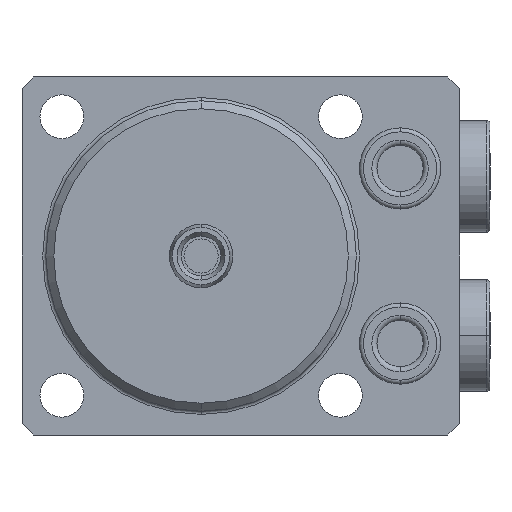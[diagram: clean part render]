
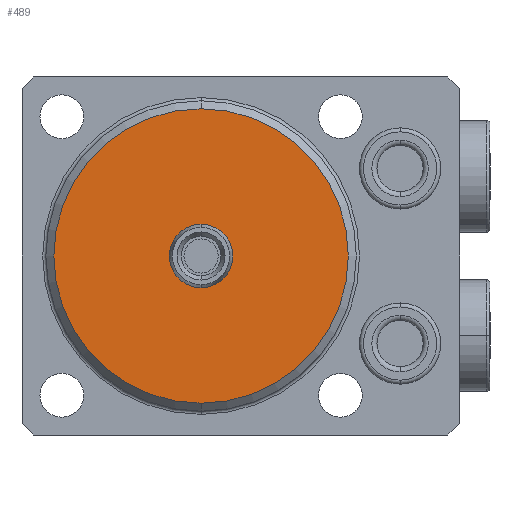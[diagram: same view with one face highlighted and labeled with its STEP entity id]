
A CAD part, front view. The second image highlights one B-rep face of the part: STEP entity #489.
In plain terms, the highlighted planar face has unit normal (0, -1, 0) as drawn and (0, 1, 0) by its records, which use the part's own axes.
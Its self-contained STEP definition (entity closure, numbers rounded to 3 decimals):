
#218=PLANE('',#5050);
#334=FACE_BOUND('',#1166,.F.);
#335=FACE_BOUND('',#1167,.F.);
#489=ADVANCED_FACE('',(#334,#335),#218,.T.);
#1166=EDGE_LOOP('',(#2096,#2097));
#1167=EDGE_LOOP('',(#2098,#2099));
#1450=CIRCLE('',#4920,4.);
#1505=CIRCLE('',#4998,18.5);
#1534=CIRCLE('',#5048,4.);
#1535=CIRCLE('',#5049,18.5);
#2096=ORIENTED_EDGE('',*,*,#3809,.T.);
#2097=ORIENTED_EDGE('',*,*,#3606,.T.);
#2098=ORIENTED_EDGE('',*,*,#3810,.T.);
#2099=ORIENTED_EDGE('',*,*,#3694,.T.);
#3154=VERTEX_POINT('',#7186);
#3155=VERTEX_POINT('',#7187);
#3226=VERTEX_POINT('',#7374);
#3227=VERTEX_POINT('',#7375);
#3606=EDGE_CURVE('',#3154,#3155,#1450,.T.);
#3694=EDGE_CURVE('',#3226,#3227,#1505,.T.);
#3809=EDGE_CURVE('',#3155,#3154,#1534,.T.);
#3810=EDGE_CURVE('',#3227,#3226,#1535,.T.);
#4920=AXIS2_PLACEMENT_3D('',#7185,#5598,#5599);
#4998=AXIS2_PLACEMENT_3D('',#7373,#5786,#5787);
#5048=AXIS2_PLACEMENT_3D('',#7684,#5945,#5946);
#5049=AXIS2_PLACEMENT_3D('',#7685,#5947,#5948);
#5050=AXIS2_PLACEMENT_3D('',#7686,#5949,#5950);
#5598=DIRECTION('',(0.,1.,0.));
#5599=DIRECTION('',(0.,0.,1.));
#5786=DIRECTION('',(0.,-1.,0.));
#5787=DIRECTION('',(0.,0.,1.));
#5945=DIRECTION('',(0.,1.,0.));
#5946=DIRECTION('',(0.,0.,1.));
#5947=DIRECTION('',(0.,-1.,0.));
#5948=DIRECTION('',(0.,0.,1.));
#5949=DIRECTION('',(0.,1.,0.));
#5950=DIRECTION('',(0.,0.,1.));
#7185=CARTESIAN_POINT('',(0.,-33.5,0.));
#7186=CARTESIAN_POINT('',(0.,-33.5,-4.));
#7187=CARTESIAN_POINT('',(0.,-33.5,4.));
#7373=CARTESIAN_POINT('',(0.,-33.5,0.));
#7374=CARTESIAN_POINT('',(0.,-33.5,-18.5));
#7375=CARTESIAN_POINT('',(0.,-33.5,18.5));
#7684=CARTESIAN_POINT('',(0.,-33.5,0.));
#7685=CARTESIAN_POINT('',(0.,-33.5,0.));
#7686=CARTESIAN_POINT('',(0.,-33.5,0.));
